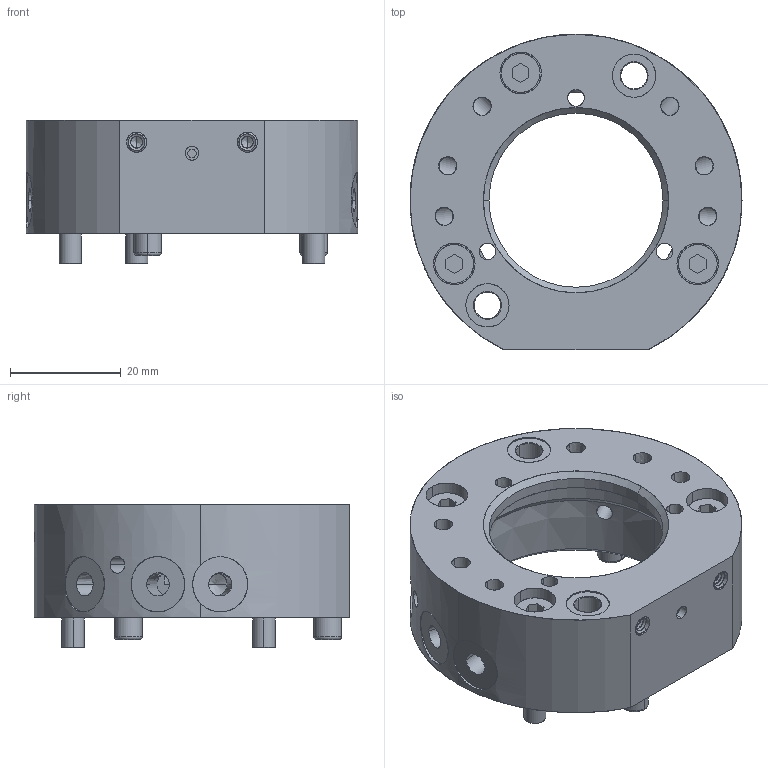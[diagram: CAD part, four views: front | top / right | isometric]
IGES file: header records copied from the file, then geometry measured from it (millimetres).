
Start section: Comment
Global section: file name: 99-0060A.igs; native system: Parasolid(12.0); preprocessor: Pariges 4.4; author: Author; organization: Title; date: 20010705.075341; units: millimetre
Bounding box: 60 x 57 x 26 mm (x, y, z)
Surface area: 15074.1 mm2 (no closed solid volume)
Topology: 0 solids, 0 shells, 284 faces, 4484 edges, 4476 vertices
Faces by surface type: revolution 189, extrusion 87, bspline 8
